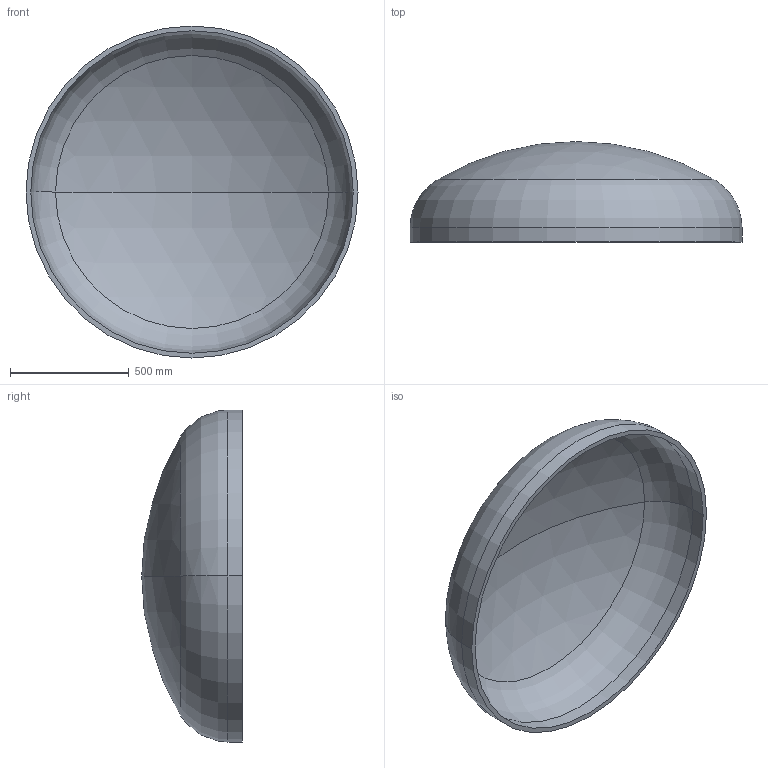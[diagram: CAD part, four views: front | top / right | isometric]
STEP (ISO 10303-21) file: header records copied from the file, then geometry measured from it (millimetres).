
FILE_DESCRIPTION (( 'STEP AP203' ), '1' );
FILE_NAME ('DIN 28013 Korbbogenform_-_Boden DIN 28013 - 1400 x 60 - I - s=20.step', '2016-07-01T10:10:59', ( '' ), ( '' ), 'SwSTEP 2.0', 'SolidWorks 2013', '' );
FILE_SCHEMA (( 'CONFIG_CONTROL_DESIGN' ));
Length unit declared in the file: millimetre
Products named in the file (1): DIN 28013 Korbbogenform_-_Boden DIN 28013 - 1400 x 60 - I - s=20
Bounding box: 1400 x 423.6 x 1400 mm (x, y, z)
Volume: 47022739.9 mm3; surface area: 4789818.1 mm2
Topology: 1 solids, 1 shells, 13 faces, 24 edges, 14 vertices
Faces by surface type: torus 4, cylinder 4, sphere 4, plane 1
Entity records: 407 total; most frequent: DIRECTION 72, CARTESIAN_POINT 52, ORIENTED_EDGE 48, AXIS2_PLACEMENT_3D 34, EDGE_CURVE 24, CIRCLE 20, EDGE_LOOP 14, VERTEX_POINT 14
